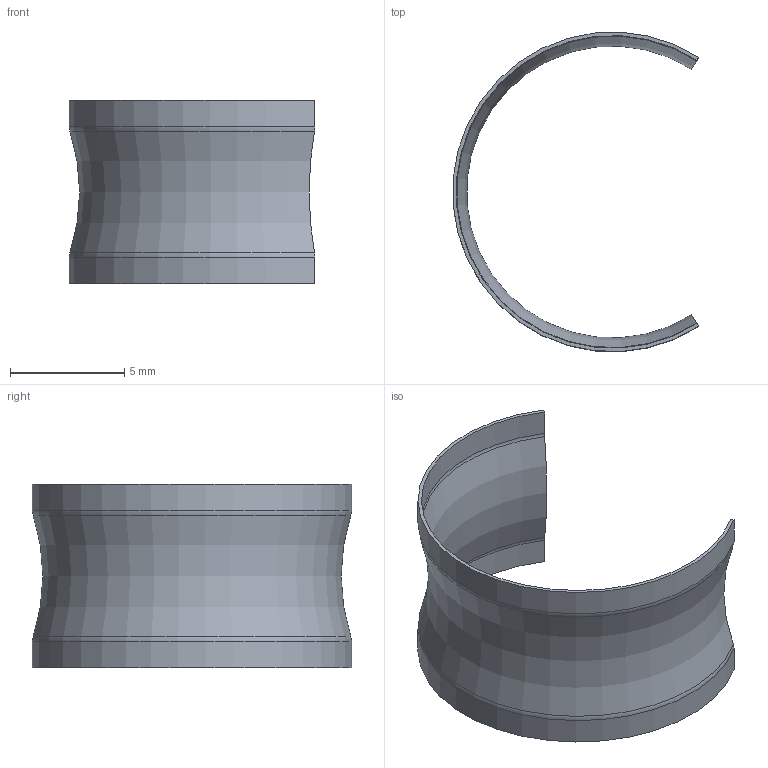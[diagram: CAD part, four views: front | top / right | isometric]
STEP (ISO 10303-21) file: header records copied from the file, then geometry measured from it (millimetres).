
FILE_DESCRIPTION((''),'2;1');
FILE_NAME('C-4-192043-5','2016-01-22T',('workeradm'),('Tyco Electronics Ltd.'),'CREO PARAMETRIC BY PTC INC, 2015200','CREO PARAMETRIC BY PTC INC, 2015200','');
FILE_SCHEMA(('AUTOMOTIVE_DESIGN { 1 0 10303 214 1 1 1 1 }'));
Length unit declared in the file: millimetre
Products named in the file (1): C-4-192043-5
Bounding box: 10.73 x 13.95 x 8 mm (x, y, z)
Volume: 35.4 mm3; surface area: 476.1 mm2
Topology: 1 solids, 1 shells, 14 faces, 36 edges, 24 vertices
Faces by surface type: torus 6, plane 4, cylinder 4
Entity records: 488 total; most frequent: DIRECTION 88, CARTESIAN_POINT 76, ORIENTED_EDGE 72, AXIS2_PLACEMENT_3D 38, EDGE_CURVE 36, VERTEX_POINT 24, CIRCLE 24, EDGE_LOOP 14
